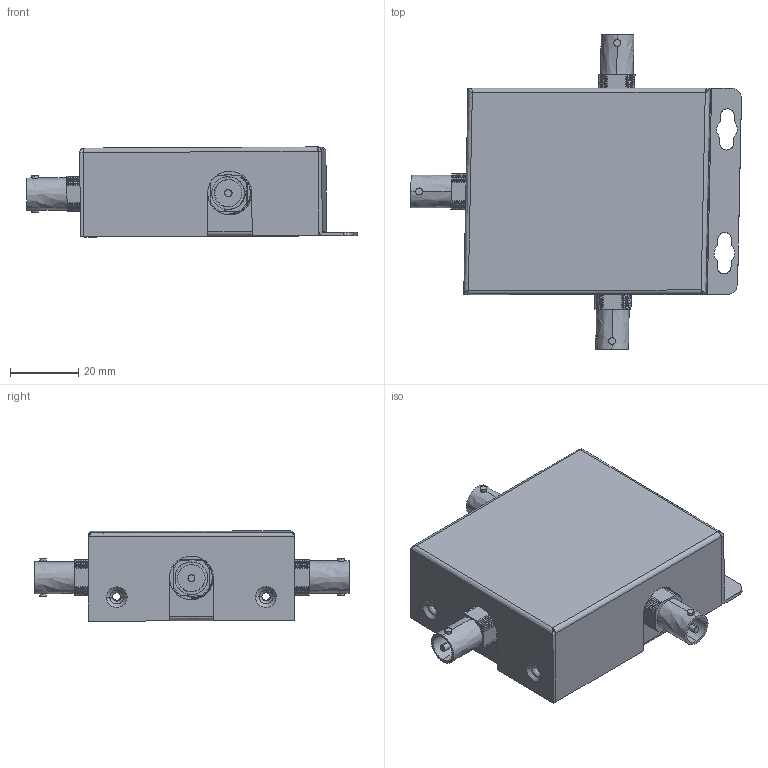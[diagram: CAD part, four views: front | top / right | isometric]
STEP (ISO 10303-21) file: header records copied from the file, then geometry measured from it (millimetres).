
FILE_DESCRIPTION(/* description */ (''),/* implementation_level */ '2;1');
FILE_NAME(/* name */ 'T-59OH~2',/* time_stamp */ '2025-01-07T17:14:35+08:00',/* author */ (''),/* organization */ (''),/* preprocessor_version */ 'ST-DEVELOPER v16.5',/* originating_system */ '',/* authorisation */ '');
FILE_SCHEMA (('CONFIG_CONTROL_DESIGN'));
Length unit declared in the file: millimetre
Products named in the file (1): Document
Bounding box: 97.03 x 92.25 x 26.43 mm (x, y, z)
Surface area: 24382.8 mm2 (no closed solid volume)
Topology: 0 solids, 5 shells, 864 faces, 2477 edges, 1612 vertices
Faces by surface type: bspline 864
Entity records: 99357 total; most frequent: CARTESIAN_POINT 84745, ORIENTED_EDGE 4865, EDGE_CURVE 2477, B_SPLINE_CURVE_WITH_KNOTS 2357, VERTEX_POINT 1612, EDGE_LOOP 892, ADVANCED_FACE 864, FACE_OUTER_BOUND 864
